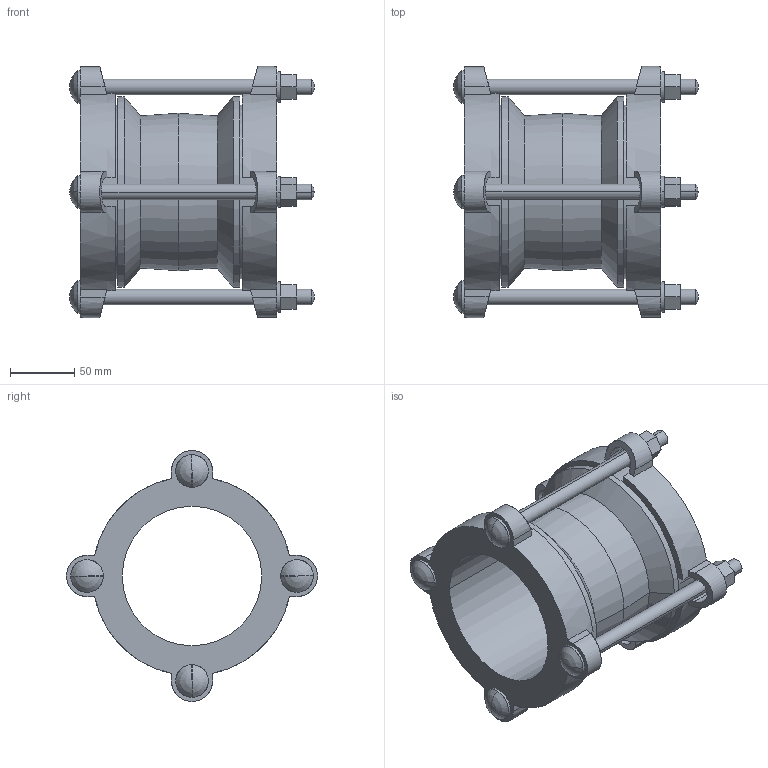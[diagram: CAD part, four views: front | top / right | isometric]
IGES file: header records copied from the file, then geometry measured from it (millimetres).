
Start section:  PTC IGES file: MAXIFIT_85-107.igs
Global section: file name: MAXIFIT_85-107.igs; native system: Creo Parametric by PTC Inc.; preprocessor: 2016130; author: MReader; organization: Unknown; date: 20180831.114357; units: millimetre
Bounding box: 190.33 x 195.5 x 195.5 mm (x, y, z)
Surface area: 209127.9 mm2 (no closed solid volume)
Topology: 0 solids, 0 shells, 198 faces, 1016 edges, 1000 vertices
Faces by surface type: bspline 108, revolution 90
